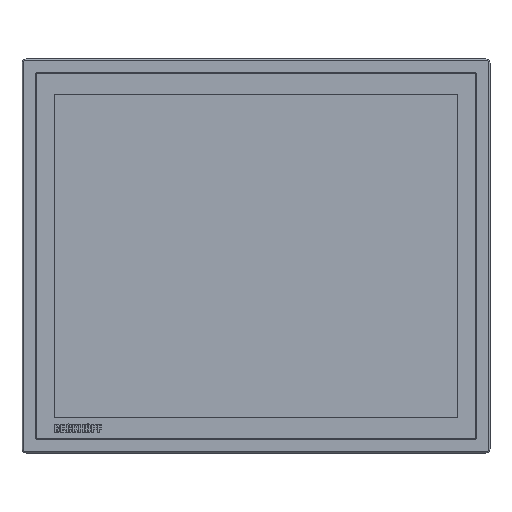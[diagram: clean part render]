
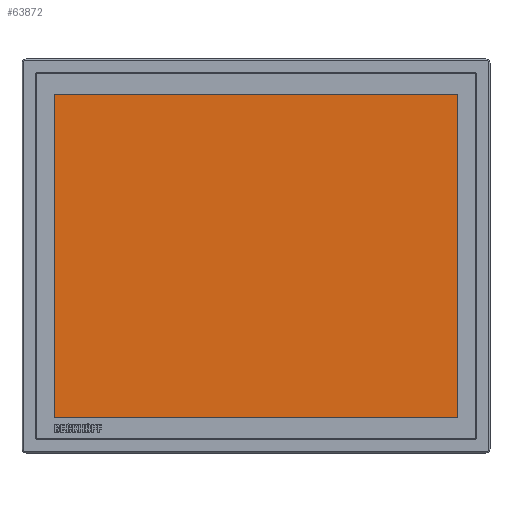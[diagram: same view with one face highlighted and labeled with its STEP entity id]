
A CAD part, top view. The second image highlights one B-rep face of the part: STEP entity #63872.
In plain terms, the highlighted planar face has unit normal (0, 0, 1).
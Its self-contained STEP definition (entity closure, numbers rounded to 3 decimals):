
#5767=LINE('',#99223,#12291);
#5768=LINE('',#99225,#12292);
#5769=LINE('',#99227,#12293);
#5770=LINE('',#99228,#12294);
#12291=VECTOR('',#80179,10.);
#12292=VECTOR('',#80180,10.);
#12293=VECTOR('',#80181,10.);
#12294=VECTOR('',#80182,10.);
#15463=PLANE('',#67800);
#19517=FACE_OUTER_BOUND('',#23635,.T.);
#23635=EDGE_LOOP('',(#52336,#52337,#52338,#52339));
#30513=VERTEX_POINT('',#99221);
#30514=VERTEX_POINT('',#99222);
#30515=VERTEX_POINT('',#99224);
#30516=VERTEX_POINT('',#99226);
#38098=EDGE_CURVE('',#30513,#30514,#5767,.T.);
#38099=EDGE_CURVE('',#30515,#30513,#5768,.T.);
#38100=EDGE_CURVE('',#30516,#30515,#5769,.T.);
#38101=EDGE_CURVE('',#30514,#30516,#5770,.T.);
#52336=ORIENTED_EDGE('',*,*,#38098,.T.);
#52337=ORIENTED_EDGE('',*,*,#38101,.T.);
#52338=ORIENTED_EDGE('',*,*,#38100,.T.);
#52339=ORIENTED_EDGE('',*,*,#38099,.T.);
#63872=ADVANCED_FACE('',(#19517),#15463,.T.);
#67800=AXIS2_PLACEMENT_3D('',#99296,#80261,#80262);
#80179=DIRECTION('',(0.,1.,0.));
#80180=DIRECTION('',(1.,0.,0.));
#80181=DIRECTION('',(0.,-1.,0.));
#80182=DIRECTION('',(-1.,0.,0.));
#80261=DIRECTION('center_axis',(0.,0.,1.));
#80262=DIRECTION('ref_axis',(1.,0.,0.));
#99221=CARTESIAN_POINT('',(189.16,-151.55,-0.2));
#99222=CARTESIAN_POINT('',(189.16,151.55,-0.2));
#99223=CARTESIAN_POINT('',(189.16,75.775,-0.2));
#99224=CARTESIAN_POINT('',(-189.16,-151.55,-0.2));
#99225=CARTESIAN_POINT('',(94.58,-151.55,-0.2));
#99226=CARTESIAN_POINT('',(-189.16,151.55,-0.2));
#99227=CARTESIAN_POINT('',(-189.16,-75.775,-0.2));
#99228=CARTESIAN_POINT('',(-94.58,151.55,-0.2));
#99296=CARTESIAN_POINT('Origin',(0.,0.,
-0.2));
